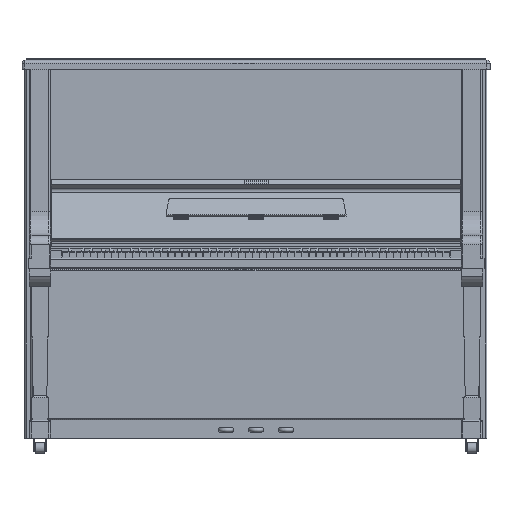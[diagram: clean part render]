
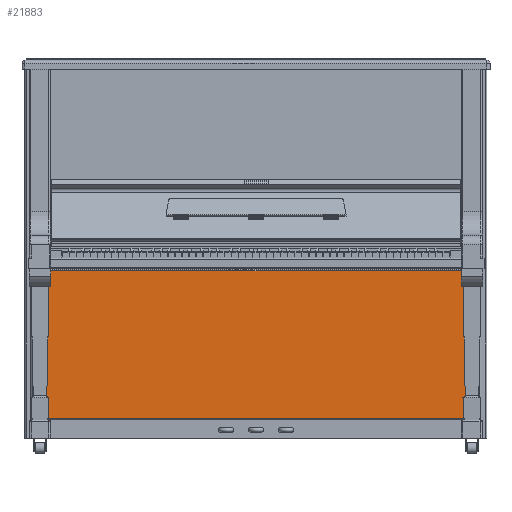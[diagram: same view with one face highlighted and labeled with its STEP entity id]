
A CAD part, top view. The second image highlights one B-rep face of the part: STEP entity #21883.
In plain terms, the highlighted planar face has unit normal (0, 0, 1).
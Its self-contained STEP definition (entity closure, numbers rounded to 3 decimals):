
#2888=LINE('',#34835,#5657);
#2889=LINE('',#34837,#5658);
#2890=LINE('',#34839,#5659);
#2891=LINE('',#34840,#5660);
#5657=VECTOR('',#28615,10.);
#5658=VECTOR('',#28616,10.);
#5659=VECTOR('',#28617,10.);
#5660=VECTOR('',#28618,10.);
#6914=FACE_OUTER_BOUND('',#8103,.T.);
#8103=EDGE_LOOP('',(#19058,#19059,#19060,#19061));
#10258=VERTEX_POINT('',#34833);
#10259=VERTEX_POINT('',#34834);
#10260=VERTEX_POINT('',#34836);
#10261=VERTEX_POINT('',#34838);
#13226=EDGE_CURVE('',#10258,#10259,#2888,.T.);
#13227=EDGE_CURVE('',#10260,#10258,#2889,.T.);
#13228=EDGE_CURVE('',#10261,#10260,#2890,.T.);
#13229=EDGE_CURVE('',#10259,#10261,#2891,.T.);
#19058=ORIENTED_EDGE('',*,*,#13226,.F.);
#19059=ORIENTED_EDGE('',*,*,#13227,.F.);
#19060=ORIENTED_EDGE('',*,*,#13228,.F.);
#19061=ORIENTED_EDGE('',*,*,#13229,.F.);
#20334=PLANE('',#23260);
#21883=ADVANCED_FACE('',(#6914),#20334,.F.);
#23260=AXIS2_PLACEMENT_3D('',#34832,#28613,#28614);
#28613=DIRECTION('center_axis',(0.,0.,-1.));
#28614=DIRECTION('ref_axis',(-1.,0.,0.));
#28615=DIRECTION('',(0.,-1.,0.));
#28616=DIRECTION('',(1.,0.,0.));
#28617=DIRECTION('',(0.,1.,0.));
#28618=DIRECTION('',(-1.,0.,0.));
#34832=CARTESIAN_POINT('Origin',(0.,362.5,-285.));
#34833=CARTESIAN_POINT('',(745.,608.,-285.));
#34834=CARTESIAN_POINT('',(745.,117.,-285.));
#34835=CARTESIAN_POINT('',(745.,237.25,-285.));
#34836=CARTESIAN_POINT('',(-745.,608.,-285.));
#34837=CARTESIAN_POINT('',(375.,608.,-285.));
#34838=CARTESIAN_POINT('',(-745.,117.,-285.));
#34839=CARTESIAN_POINT('',(-745.,487.75,-285.));
#34840=CARTESIAN_POINT('',(-375.,117.,-285.));
